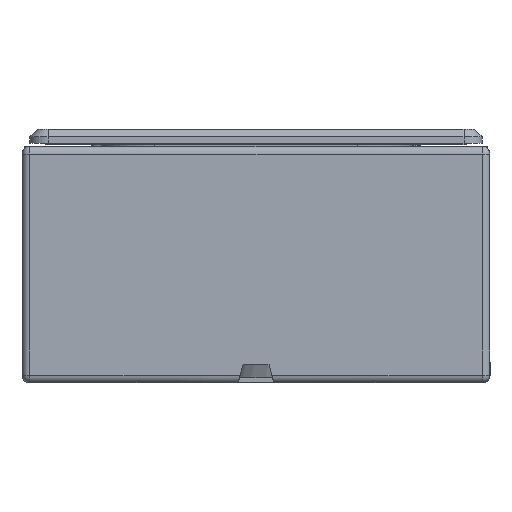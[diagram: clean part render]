
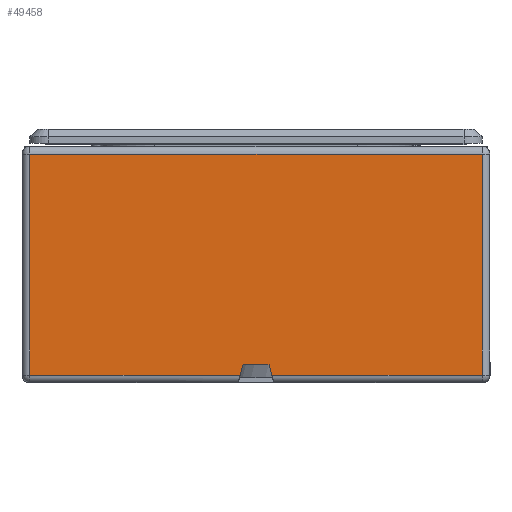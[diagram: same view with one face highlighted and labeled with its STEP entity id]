
A CAD part, left-side view. The second image highlights one B-rep face of the part: STEP entity #49458.
In plain terms, the highlighted planar face has unit normal (-1, 0, 0).
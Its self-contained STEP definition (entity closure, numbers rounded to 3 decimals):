
#4023=FACE_OUTER_BOUND('',#7091,.T.);
#7091=EDGE_LOOP('',(#37700,#37701,#37702,#37703,#37704,#37705,#37706,#37707));
#10748=LINE('',#85699,#15296);
#10749=LINE('',#85705,#15297);
#10750=LINE('',#85706,#15298);
#10751=LINE('',#85708,#15299);
#10752=LINE('',#85710,#15300);
#10753=LINE('',#85712,#15301);
#10754=LINE('',#85714,#15302);
#10755=LINE('',#85715,#15303);
#15296=VECTOR('',#61294,1000.);
#15297=VECTOR('',#61301,1000.);
#15298=VECTOR('',#61302,1000.);
#15299=VECTOR('',#61303,1000.);
#15300=VECTOR('',#61304,1000.);
#15301=VECTOR('',#61305,1000.);
#15302=VECTOR('',#61306,1000.);
#15303=VECTOR('',#61307,1000.);
#21635=VERTEX_POINT('',#85697);
#21636=VERTEX_POINT('',#85698);
#21637=VERTEX_POINT('',#85703);
#21638=VERTEX_POINT('',#85704);
#21639=VERTEX_POINT('',#85707);
#21640=VERTEX_POINT('',#85709);
#21641=VERTEX_POINT('',#85711);
#21642=VERTEX_POINT('',#85713);
#27461=EDGE_CURVE('',#21635,#21636,#10748,.T.);
#27464=EDGE_CURVE('',#21637,#21638,#10749,.T.);
#27465=EDGE_CURVE('',#21636,#21637,#10750,.T.);
#27466=EDGE_CURVE('',#21635,#21639,#10751,.T.);
#27467=EDGE_CURVE('',#21640,#21639,#10752,.T.);
#27468=EDGE_CURVE('',#21641,#21640,#10753,.T.);
#27469=EDGE_CURVE('',#21642,#21641,#10754,.T.);
#27470=EDGE_CURVE('',#21642,#21638,#10755,.T.);
#37700=ORIENTED_EDGE('',*,*,#27464,.F.);
#37701=ORIENTED_EDGE('',*,*,#27465,.F.);
#37702=ORIENTED_EDGE('',*,*,#27461,.F.);
#37703=ORIENTED_EDGE('',*,*,#27466,.T.);
#37704=ORIENTED_EDGE('',*,*,#27467,.F.);
#37705=ORIENTED_EDGE('',*,*,#27468,.F.);
#37706=ORIENTED_EDGE('',*,*,#27469,.F.);
#37707=ORIENTED_EDGE('',*,*,#27470,.T.);
#47474=PLANE('',#53201);
#49458=ADVANCED_FACE('',(#4023),#47474,.F.);
#53201=AXIS2_PLACEMENT_3D('',#85702,#61299,#61300);
#61294=DIRECTION('',(0.,0.,1.));
#61299=DIRECTION('center_axis',(1.,0.,0.));
#61300=DIRECTION('ref_axis',(0.,1.,0.));
#61301=DIRECTION('',(0.,0.,-1.));
#61302=DIRECTION('',(0.,-1.,0.));
#61303=DIRECTION('',(0.,-1.,0.));
#61304=DIRECTION('',(0.,0.256,-0.967));
#61305=DIRECTION('',(0.,1.,0.));
#61306=DIRECTION('',(0.,0.256,0.967));
#61307=DIRECTION('',(0.,-1.,0.));
#85697=CARTESIAN_POINT('',(-247.5,87.,-88.624));
#85698=CARTESIAN_POINT('',(-247.5,87.,-3.624));
#85699=CARTESIAN_POINT('',(-247.5,87.,-0.624));
#85702=CARTESIAN_POINT('Origin',(-247.5,90.,-0.624));
#85703=CARTESIAN_POINT('',(-247.5,-87.,-3.624));
#85704=CARTESIAN_POINT('',(-247.5,-87.,-88.624));
#85705=CARTESIAN_POINT('',(-247.5,-87.,-0.624));
#85706=CARTESIAN_POINT('',(-247.5,90.,-3.624));
#85707=CARTESIAN_POINT('',(-247.5,6.057,-88.624));
#85708=CARTESIAN_POINT('',(-247.5,-87.,-88.624));
#85709=CARTESIAN_POINT('',(-247.5,5.,-84.624));
#85710=CARTESIAN_POINT('',(-247.5,6.85,-91.624));
#85711=CARTESIAN_POINT('',(-247.5,-5.,-84.624));
#85712=CARTESIAN_POINT('',(-247.5,-5.,-84.624));
#85713=CARTESIAN_POINT('',(-247.5,-6.057,-88.624));
#85714=CARTESIAN_POINT('',(-247.5,-5.,-84.624));
#85715=CARTESIAN_POINT('',(-247.5,-87.,-88.624));
